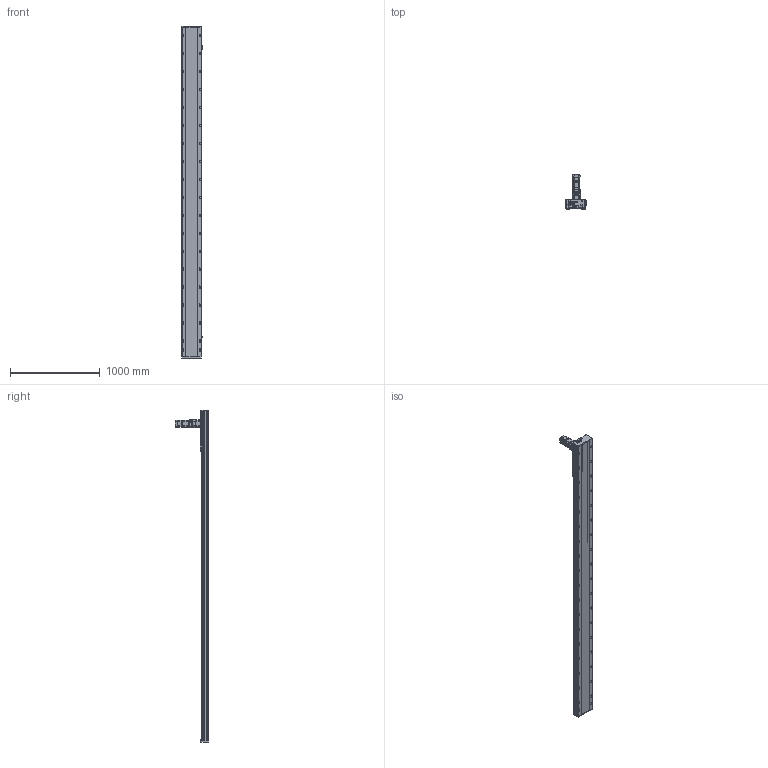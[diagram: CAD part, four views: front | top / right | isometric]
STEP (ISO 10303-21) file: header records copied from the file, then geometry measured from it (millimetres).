
FILE_DESCRIPTION (( 'STEP AP214' ), '1' );
FILE_NAME ('SHS220-S3200.step', '2022-12-05T08:29:42', ( '' ), ( '' ), 'SwSTEP 2.0', 'SolidWorks 2020', '' );
FILE_SCHEMA (( 'AUTOMOTIVE_DESIGN' ));
Length unit declared in the file: millimetre
Products named in the file (9): SB-90-3-P2-C20807_203.step; SHS220-S3200; 錨璃56^SHS220-S3200; _SVR-MX33_b.step; SHS220-S3200.step; SHS220-DZ-3200.step; SGMJV-08A3A6E.step; SHS220____.step; SHS220______.step
Assembly tree (14 placements, depth 3):
  SHS220-S3200
    SHS220-S3200.step
      SHS220-DZ-3200.step
      SB-90-3-P2-C20807_203.step
      SGMJV-08A3A6E.step
      SHS220______.step
      SHS220____.step
      _SVR-MX33_b.step  x7
    錨璃56^SHS220-S3200
Bounding box: 238.7 x 372.6 x 3694.2 mm (x, y, z)
Volume: 30557741.9 mm3; surface area: 5722941.9 mm2
Topology: 98 solids, 115 shells, 5257 faces, 14347 edges, 9329 vertices
Faces by surface type: plane 2809, cylinder 1393, bspline 614, cone 441
Entity records: 178208 total; most frequent: CARTESIAN_POINT 57711, ORIENTED_EDGE 22170, DIRECTION 19011, EDGE_CURVE 11085, VERTEX_POINT 7277, LINE 7201, VECTOR 7201, AXIS2_PLACEMENT_3D 5905
